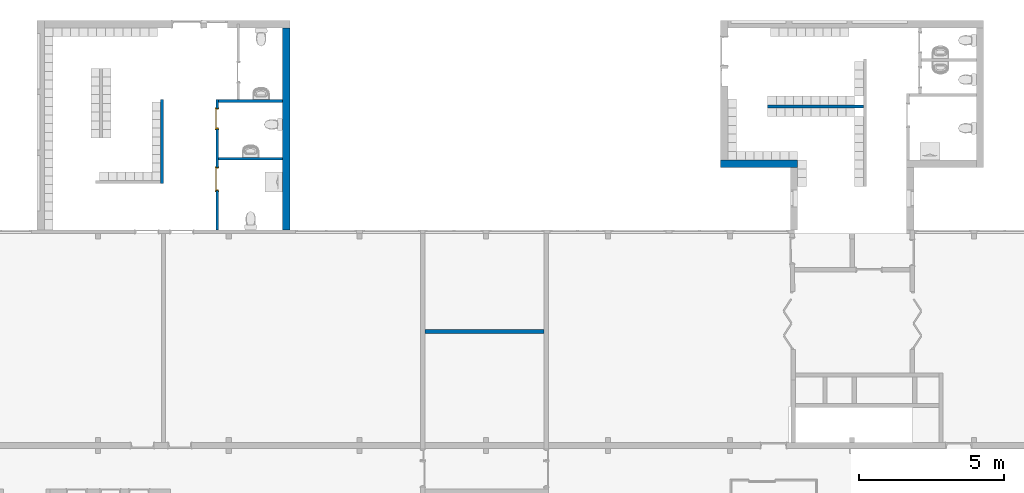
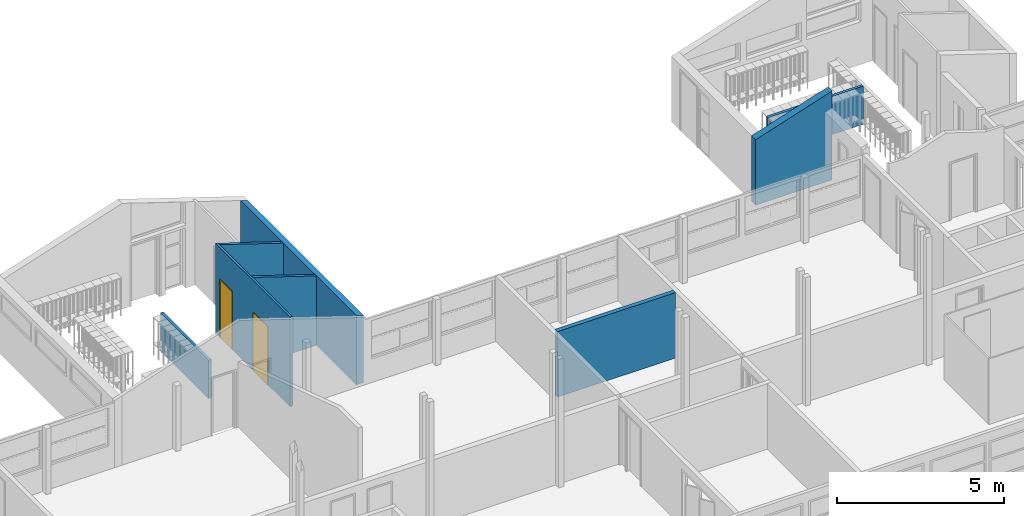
# One storey, part 31 of 48: 8 walls, 2 doors, 2 openings.
"""IFC2X3 building model written with IfcOpenShell, lengths in millimetres."""

from ifc_helpers import new_model, entity, si_unit, converted_unit, derived_unit, money_unit, direction, frame, origin_with_axes, place, context, subcontext, project, spatial, faceted_brep, material, type_object, element, fill, save


model = new_model("IFC2X3")

# Units and contexts
model_context = context("Model", 3, precision=0.01, world=origin_with_axes(), true_north=direction((0.0, 1.0)))
body_context = subcontext(model_context, "Body", "Model", "MODEL_VIEW")
ifc_project = project(units=[si_unit("LENGTHUNIT", "METRE", prefix="MILLI"), si_unit("AREAUNIT", "SQUARE_METRE"), si_unit("VOLUMEUNIT", "CUBIC_METRE"), converted_unit("PLANEANGLEUNIT", "DEGREE", entity("IfcPlaneAngleMeasure", 0.0174532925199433), si_unit("PLANEANGLEUNIT", "RADIAN"), dimensions=[0, 0, 0, 0, 0, 0, 0]), money_unit("USD"), converted_unit("TIMEUNIT", "Year", entity("IfcTimeMeasure", 31557600.0), si_unit("TIMEUNIT", "SECOND"), dimensions=[0, 0, 1, 0, 0, 0, 0]), si_unit("MASSUNIT", "GRAM", prefix="KILO"), si_unit("THERMODYNAMICTEMPERATUREUNIT", "DEGREE_CELSIUS"), si_unit("LUMINOUSINTENSITYUNIT", "LUMEN"), si_unit("ENERGYUNIT", "JOULE", prefix="MEGA"), derived_unit("THERMALCONDUCTANCEUNIT", [(si_unit("POWERUNIT", "WATT"), 1), (si_unit("LENGTHUNIT", "METRE"), -1), (si_unit("THERMODYNAMICTEMPERATUREUNIT", "KELVIN"), -1)]), derived_unit("SPECIFICHEATCAPACITYUNIT", [(si_unit("ENERGYUNIT", "JOULE"), 1), (si_unit("MASSUNIT", "GRAM", prefix="KILO"), -1), (si_unit("THERMODYNAMICTEMPERATUREUNIT", "KELVIN"), -1)]), derived_unit("MASSDENSITYUNIT", [(si_unit("MASSUNIT", "GRAM", prefix="KILO"), 1), (si_unit("VOLUMEUNIT", "CUBIC_METRE"), -1)])], contexts=[model_context])

# Site, building, storey
site_placement = place(None, origin_with_axes())
site = spatial("IfcSite", under=ifc_project, at=site_placement, Name="Site", CompositionType="ELEMENT")
building_placement = place(site_placement, origin_with_axes())
building = spatial("IfcBuilding", under=site, at=building_placement, Name="Building", CompositionType="ELEMENT")
storey_placement = place(building_placement, frame((0.0, 0.0, 3300.0), z_axis=(0.0, 0.0, 1.0), x_axis=(1.0, 0.0, 0.0)))
storey = spatial("IfcBuildingStorey", under=building, at=storey_placement, Name="1 ETG", CompositionType="ELEMENT", Elevation=3300.0)

# Walls
ifc_material = material(Name="GENERIC - INTERNAL FILLER")
wall_type_1 = type_object("IfcWallType", Name="GENERIC - INTERNAL FILLER 150", PredefinedType="NOTDEFINED")
wall_1_placement = place(storey_placement, frame((47250.00000000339, 18499.87497638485, 0.0), z_axis=(0.0, 0.0, 1.0), x_axis=(0.9999999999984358, 1.768724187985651e-06, 0.0)))
element("IfcWall", 1, at=wall_1_placement, inside=storey, type_object=wall_type_1, material=ifc_material, Name="SW - 001", context=body_context, shape_type="Brep", body=[
    faceted_brep([(4099.98001334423, -150.0072517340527, 2400.0), (4099.98001334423, -0.007251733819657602, 2400.0), (0.0, 0.0, 2400.0), (-0.0002653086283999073, -149.9999999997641, 2400.0), (4099.98001334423, -150.0072517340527, 0.0), (4099.98001334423, -0.007251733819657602, 0.0), (0.0, 0.0, 0.0), (-0.0002653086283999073, -149.9999999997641, 0.0)], [[[0, 1, 2, 3]], [[1, 0, 4, 5]], [[1, 5, 6, 2]], [[7, 3, 2, 6]], [[4, 0, 3, 7]], [[5, 4, 7, 6]]]),
])
wall_type_2 = type_object("IfcWallType", Name="GENERIC - INTERNAL FILLER 250", PredefinedType="NOTDEFINED")
wall_2_placement = place(storey_placement, frame((42475.01590910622, 29000.0, 0.0), z_axis=(0.0, 0.0, 1.0), x_axis=(1.398240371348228e-07, -0.9999999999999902, 0.0)))
element("IfcWall", 2, at=wall_2_placement, inside=storey, type_object=wall_type_2, material=ifc_material, Name="SW - 001", context=body_context, shape_type="Brep", body=[
    faceted_brep([(124.9999825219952, -125.0, 0.0), (124.9999825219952, -125.0, 2538.091265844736), (125.0000174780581, 125.0003881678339, 2456.861215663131), (125.0000174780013, 125.0, 0.0), (7080.074635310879, -125.0, 2538.09095273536), (7080.074635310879, -125.0, 0.0), (7080.074635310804, 124.9994630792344, 2456.86120025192), (7080.074635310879, 124.9999999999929, 0.0)], [[[0, 1, 2, 3]], [[4, 1, 0, 5]], [[6, 2, 1, 4]], [[3, 2, 6, 7]], [[5, 0, 3, 7]], [[7, 6, 4, 5]]]),
])
wall_3_placement = place(storey_placement, frame((59950.4607657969, 24194.83911730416, 0.0), z_axis=(0.0, 0.0, 1.0), x_axis=(-1.0, 0.0, 0.0)))
element("IfcWall", 3, at=wall_3_placement, inside=storey, type_object=wall_type_2, material=ifc_material, Name="SW - 001", context=body_context, shape_type="Brep", body=[
    faceted_brep([(2525.46074831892, -125.0, 0.0), (2525.46074831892, -125.0, 2399.999999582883), (-125.0, -125.0, 3261.187071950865), (-125.0, -125.0, 0.0), (2525.46074831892, 125.0, 0.0), (2525.46074831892, 125.0, 2399.999999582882), (-125.0, 125.0, 3261.187071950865), (-125.0, 125.0, 0.0)], [[[0, 1, 2, 3]], [[4, 5, 1, 0]], [[5, 6, 2, 1]], [[3, 2, 6, 7]], [[3, 7, 4, 0]], [[7, 6, 5, 4]]]),
])
wall_type_3 = type_object("IfcWallType", Name="GENERIC - INTERNAL FILLER 100", PredefinedType="NOTDEFINED")
wall_4_placement = place(storey_placement, frame((40099.99999999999, 24319.92555985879, 0.0), z_axis=(0.0, 0.0, 1.0), x_axis=(1.0, 1.030904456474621e-08, 0.0)))
element("IfcWall", 4, at=wall_4_placement, inside=storey, type_object=wall_type_3, material=ifc_material, Name="SW - 001", context=body_context, shape_type="Brep", body=[
    faceted_brep([(50.0000010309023, 99.99999948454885, 0.0), (50.0000010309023, 99.99999948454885, 3252.919772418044), (2250.016550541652, 99.99997680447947, 2538.091063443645), (2250.016550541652, 99.99997680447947, 0.0), (49.99999999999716, -5.154525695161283e-07, 0.0), (49.99999999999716, -5.154525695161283e-07, 3252.919772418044), (2250.016563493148, -2.319552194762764e-05, 2538.091058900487), (2250.016563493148, -2.319552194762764e-05, 0.0)], [[[0, 1, 2, 3]], [[4, 5, 1, 0]], [[5, 6, 2, 1]], [[3, 2, 6, 7]], [[0, 3, 7, 4]], [[7, 6, 5, 4]]]),
])

# Wall, openings, doors
wall_5_placement = place(storey_placement, frame((40099.99999999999, 21919.92517691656, 0.0), z_axis=(0.0, 0.0, 1.0), x_axis=(0.0, 1.0, 0.0)))
wall_5 = element("IfcWall", 5, at=wall_5_placement, inside=storey, type_object=wall_type_3, material=ifc_material, Name="SW - 001", context=body_context, shape_type="Brep", body=[
    faceted_brep([(3476.41344462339, -49.99999999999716, 0.0), (3476.41344462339, -49.99999999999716, 2100.0), (4176.413444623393, -49.99999999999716, 2100.0), (4176.413444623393, -49.99999999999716, 0.0), (4479.949664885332, -49.99999999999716, 0.0), (4479.949664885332, -49.99999999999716, 3252.919772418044), (0.0, -49.99999999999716, 3252.919772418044), (0.0, -49.99999999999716, 0.0), (1350.000381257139, -49.99999999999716, 0.0), (1350.000381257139, -49.99999999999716, 2100.0), (2150.000381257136, -49.99999999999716, 2100.0), (2150.000381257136, -49.99999999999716, 0.0), (3476.41344462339, 49.99999999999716, 0.0), (3476.41344462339, 49.99999999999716, 2100.0), (4176.413444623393, 49.99999999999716, 2100.0), (4176.413444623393, 49.99999999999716, 0.0), (4479.949650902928, 49.99999999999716, 0.0), (4479.949650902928, 49.99999999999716, 3285.411742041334), (0.0, 49.99999999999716, 3285.411742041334), (0.0, 49.99999999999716, 0.0), (1350.000381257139, 49.99999999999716, 0.0), (1350.000381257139, 49.99999999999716, 2100.0), (2150.000381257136, 49.99999999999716, 2100.0), (2150.000381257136, 49.99999999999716, 0.0)], [[[0, 1, 2, 3, 4, 5, 6, 7, 8, 9, 10, 11]], [[1, 0, 12, 13]], [[2, 1, 13, 14]], [[3, 2, 14, 15]], [[3, 15, 16, 4]], [[5, 4, 16, 17]], [[5, 17, 18, 6]], [[18, 19, 7, 6]], [[8, 7, 19, 20]], [[8, 20, 21, 9]], [[9, 21, 22, 10]], [[10, 22, 23, 11]], [[12, 0, 11, 23]], [[13, 12, 23, 22, 21, 20, 19, 18, 17, 16, 15, 14]]]),
])
opening_1_placement = place(wall_5_placement, frame((1750.000381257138, 0.0, 0.0), z_axis=(0.0, 0.0, 1.0), x_axis=(1.0, 0.0, 0.0)))
opening_1 = element("IfcOpeningElement", 6, at=opening_1_placement, cuts=wall_5, Name="DOO - 002", context=body_context, shape_type="Brep", body=[
    faceted_brep([(399.9999999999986, -50.99999999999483, 0.0), (399.9999999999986, -50.99999999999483, 2100.0), (-399.9999999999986, -50.99999999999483, 2100.0), (-399.9999999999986, -50.99999999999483, 0.0), (437.0000000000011, -50.99999999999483, 0.0), (437.0000000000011, -50.99999999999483, 2137.0), (-437.0000000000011, -50.99999999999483, 2137.0), (-437.0000000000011, -50.99999999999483, 0.0), (399.9999999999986, -49.99999999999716, 0.0), (-399.9999999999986, -49.99999999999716, 0.0), (-399.9999999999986, 50.00000000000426, 0.0), (-399.9999999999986, 50.99999999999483, 0.0), (399.9999999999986, 50.99999999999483, 0.0), (399.9999999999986, 50.00000000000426, 0.0), (437.0000000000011, -49.99999999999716, 0.0), (437.0000000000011, -49.99999999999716, 2137.0), (-437.0000000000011, -49.99999999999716, 2137.0), (-437.0000000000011, -49.99999999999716, 0.0), (-399.9999999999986, -49.99999999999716, 2100.0), (-399.9999999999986, 50.00000000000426, 2100.0), (-437.0000000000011, 50.00000000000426, 0.0), (-437.0000000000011, 50.99999999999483, 0.0), (-437.0000000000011, 50.99999999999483, 2137.0), (437.0000000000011, 50.99999999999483, 2137.0), (437.0000000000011, 50.99999999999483, 0.0), (437.0000000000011, 50.00000000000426, 0.0), (399.9999999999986, -49.99999999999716, 2100.0), (399.9999999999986, 50.00000000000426, 2100.0), (437.0000000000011, 50.00000000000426, 2137.0), (-437.0000000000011, 50.00000000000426, 2137.0)], [[[0, 1, 2, 3]], [[2, 1, 0, 4, 5, 6, 7, 3]], [[8, 0, 3, 9, 10, 11, 12, 13]], [[0, 8, 14, 4]], [[14, 15, 5, 4]], [[15, 16, 6, 5]], [[16, 17, 7, 6]], [[9, 3, 7, 17]], [[9, 18, 19, 10]], [[11, 10, 20, 21]], [[12, 11, 21, 22, 23, 24]], [[13, 12, 24, 25]], [[26, 8, 13, 27]], [[8, 26, 18, 9, 17, 16, 15, 14]], [[18, 26, 27, 19]], [[19, 27, 13, 25, 28, 29, 20, 10]], [[20, 29, 22, 21]], [[29, 28, 23, 22]], [[28, 25, 24, 23]]]),
])
opening_2_placement = place(wall_5_placement, frame((3826.413444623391, 0.0, 0.0), z_axis=(0.0, 0.0, 1.0), x_axis=(1.0, 0.0, 0.0)))
opening_2 = element("IfcOpeningElement", 7, at=opening_2_placement, cuts=wall_5, Name="DOO - 002", context=body_context, shape_type="Brep", body=[
    faceted_brep([(350.0000000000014, -50.99999999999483, 0.0), (350.0000000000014, -50.99999999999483, 2100.0), (-350.0000000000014, -50.99999999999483, 2100.0), (-350.0000000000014, -50.99999999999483, 0.0), (387.0000000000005, -50.99999999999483, 0.0), (387.0000000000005, -50.99999999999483, 2137.0), (-387.0000000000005, -50.99999999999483, 2137.0), (-387.0000000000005, -50.99999999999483, 0.0), (350.0000000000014, -49.99999999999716, 0.0), (-350.0000000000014, -49.99999999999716, 0.0), (-350.0000000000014, 50.00000000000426, 0.0), (-350.0000000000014, 50.99999999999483, 0.0), (350.0000000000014, 50.99999999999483, 0.0), (350.0000000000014, 50.00000000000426, 0.0), (387.0000000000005, -49.99999999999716, 0.0), (387.0000000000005, -49.99999999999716, 2137.0), (-387.0000000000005, -49.99999999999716, 2137.0), (-387.0000000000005, -49.99999999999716, 0.0), (-350.0000000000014, -49.99999999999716, 2100.0), (-350.0000000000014, 50.00000000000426, 2100.0), (-387.0000000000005, 50.00000000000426, 0.0), (-387.0000000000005, 50.99999999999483, 0.0), (-387.0000000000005, 50.99999999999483, 2137.0), (387.0000000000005, 50.99999999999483, 2137.0), (387.0000000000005, 50.99999999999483, 0.0), (387.0000000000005, 50.00000000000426, 0.0), (350.0000000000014, -49.99999999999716, 2100.0), (350.0000000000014, 50.00000000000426, 2100.0), (387.0000000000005, 50.00000000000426, 2137.0), (-387.0000000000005, 50.00000000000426, 2137.0)], [[[0, 1, 2, 3]], [[2, 1, 0, 4, 5, 6, 7, 3]], [[8, 0, 3, 9, 10, 11, 12, 13]], [[0, 8, 14, 4]], [[14, 15, 5, 4]], [[15, 16, 6, 5]], [[16, 17, 7, 6]], [[9, 3, 7, 17]], [[9, 18, 19, 10]], [[11, 10, 20, 21]], [[12, 11, 21, 22, 23, 24]], [[13, 12, 24, 25]], [[26, 8, 13, 27]], [[8, 26, 18, 9, 17, 16, 15, 14]], [[18, 26, 27, 19]], [[19, 27, 13, 25, 28, 29, 20, 10]], [[20, 29, 22, 21]], [[29, 28, 23, 22]], [[28, 25, 24, 23]]]),
])
door_style = type_object("IfcDoorStyle", Name="Dør", ConstructionType="NOTDEFINED", OperationType="SINGLE_SWING_RIGHT", ParameterTakesPrecedence=False, Sizeable=False)
door_1_placement = place(opening_1_placement, frame((-399.9999999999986, 0.0, 0.0), z_axis=(0.0, 0.0, 1.0), x_axis=(1.0, 0.0, 0.0)))
door_1 = element("IfcDoor", 8, at=door_1_placement, inside=storey, type_object=door_style, Name="DOO - 002", ObjectType="DOOR", OverallHeight=2100.0, OverallWidth=800.0, context=body_context, shape_type="Brep", body=[
    faceted_brep([(-37.00000000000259, 69.00000000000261, 0.0), (12.99999999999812, 69.00000000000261, 0.0), (12.99999999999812, 50.00000000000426, 0.0), (-37.00000000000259, 50.00000000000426, 0.0), (-37.00000000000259, 69.00000000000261, 2137.0), (12.99999999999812, 69.00000000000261, 2087.0), (12.99999999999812, 50.00000000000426, 2087.0), (-37.00000000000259, 50.00000000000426, 2137.0)], [[[0, 1, 2, 3]], [[0, 4, 5, 1]], [[1, 5, 6, 2]], [[3, 2, 6, 7]], [[4, 0, 3, 7]], [[5, 4, 7, 6]]]),
    faceted_brep([(836.9999999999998, 69.00000000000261, 2137.0), (786.9999999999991, 69.00000000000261, 2087.0), (786.9999999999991, 50.00000000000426, 2087.0), (836.9999999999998, 50.00000000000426, 2137.0), (836.9999999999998, 69.00000000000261, 0.0), (786.9999999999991, 69.00000000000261, 0.0), (786.9999999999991, 50.00000000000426, 0.0), (836.9999999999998, 50.00000000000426, 0.0)], [[[0, 1, 2, 3]], [[0, 4, 5, 1]], [[1, 5, 6, 2]], [[3, 2, 6, 7]], [[4, 0, 3, 7]], [[5, 4, 7, 6]]]),
    faceted_brep([(-37.00000000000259, 69.00000000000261, 2137.0), (12.99999999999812, 69.00000000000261, 2087.0), (12.99999999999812, 50.00000000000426, 2087.0), (-37.00000000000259, 50.00000000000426, 2137.0), (836.9999999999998, 69.00000000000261, 2137.0), (786.9999999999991, 69.00000000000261, 2087.0), (786.9999999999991, 50.00000000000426, 2087.0), (836.9999999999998, 50.00000000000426, 2137.0)], [[[0, 1, 2, 3]], [[0, 4, 5, 1]], [[1, 5, 6, 2]], [[3, 2, 6, 7]], [[4, 0, 3, 7]], [[5, 4, 7, 6]]]),
    faceted_brep([(-37.00000000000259, -68.99999999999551, 0.0), (-37.00000000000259, -49.99999999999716, 0.0), (12.99999999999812, -49.99999999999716, 0.0), (12.99999999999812, -68.99999999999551, 0.0), (-37.00000000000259, -68.99999999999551, 2137.0), (-37.00000000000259, -49.99999999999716, 2137.0), (12.99999999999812, -49.99999999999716, 2087.0), (12.99999999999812, -68.99999999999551, 2087.0)], [[[0, 1, 2, 3]], [[4, 5, 1, 0]], [[1, 5, 6, 2]], [[3, 2, 6, 7]], [[0, 3, 7, 4]], [[7, 6, 5, 4]]]),
    faceted_brep([(836.9999999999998, -68.99999999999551, 2137.0), (836.9999999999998, -49.99999999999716, 2137.0), (786.9999999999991, -49.99999999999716, 2087.0), (786.9999999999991, -68.99999999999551, 2087.0), (836.9999999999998, -68.99999999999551, 0.0), (836.9999999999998, -49.99999999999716, 0.0), (786.9999999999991, -49.99999999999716, 0.0), (786.9999999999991, -68.99999999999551, 0.0)], [[[0, 1, 2, 3]], [[4, 5, 1, 0]], [[1, 5, 6, 2]], [[3, 2, 6, 7]], [[0, 3, 7, 4]], [[7, 6, 5, 4]]]),
    faceted_brep([(-37.00000000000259, -68.99999999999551, 2137.0), (-37.00000000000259, -49.99999999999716, 2137.0), (12.99999999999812, -49.99999999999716, 2087.0), (12.99999999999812, -68.99999999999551, 2087.0), (836.9999999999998, -68.99999999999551, 2137.0), (836.9999999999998, -49.99999999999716, 2137.0), (786.9999999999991, -49.99999999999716, 2087.0), (786.9999999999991, -68.99999999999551, 2087.0)], [[[0, 1, 2, 3]], [[4, 5, 1, 0]], [[1, 5, 6, 2]], [[3, 2, 6, 7]], [[0, 3, 7, 4]], [[7, 6, 5, 4]]]),
    faceted_brep([(0.0, 65.00000000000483, 0.0), (39.99999999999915, 65.00000000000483, 0.0), (39.99999999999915, -49.99999999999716, 0.0), (0.0, -49.99999999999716, 0.0), (0.0, 65.00000000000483, 2060.0), (39.99999999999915, 65.00000000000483, 2060.0), (39.99999999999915, -49.99999999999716, 2060.0), (0.0, -49.99999999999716, 2060.0)], [[[0, 1, 2, 3]], [[0, 4, 5, 1]], [[1, 5, 6, 2]], [[3, 2, 6, 7]], [[4, 0, 3, 7]], [[5, 4, 7, 6]]]),
    faceted_brep([(799.9999999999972, 65.00000000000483, 0.0), (799.9999999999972, 65.00000000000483, 2060.0), (799.9999999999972, -49.99999999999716, 2060.0), (799.9999999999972, -49.99999999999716, 0.0), (759.999999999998, 65.00000000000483, 0.0), (759.999999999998, 65.00000000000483, 2060.0), (759.999999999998, -49.99999999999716, 2060.0), (759.999999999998, -49.99999999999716, 0.0)], [[[0, 1, 2, 3]], [[0, 4, 5, 1]], [[1, 5, 6, 2]], [[3, 2, 6, 7]], [[4, 0, 3, 7]], [[5, 4, 7, 6]]]),
    faceted_brep([(0.0, 65.00000000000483, 2100.0), (0.0, 65.00000000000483, 2060.0), (0.0, -49.99999999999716, 2060.0), (0.0, -49.99999999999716, 2100.0), (799.9999999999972, 65.00000000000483, 2100.0), (799.9999999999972, 65.00000000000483, 2060.0), (759.999999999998, 65.00000000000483, 2060.0), (39.99999999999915, 65.00000000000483, 2060.0), (39.99999999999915, -49.99999999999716, 2060.0), (759.999999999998, -49.99999999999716, 2060.0), (799.9999999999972, -49.99999999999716, 2060.0), (799.9999999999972, -49.99999999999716, 2100.0)], [[[0, 1, 2, 3]], [[0, 4, 5, 6, 7, 1]], [[1, 7, 8, 2]], [[3, 2, 8, 9, 10, 11]], [[4, 0, 3, 11]], [[5, 4, 11, 10]], [[6, 5, 10, 9]], [[7, 6, 9, 8]]]),
    faceted_brep([(759.999999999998, 65.00000000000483, 0.0), (759.999999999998, 25.00000000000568, 0.0), (39.99999999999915, 25.00000000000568, 0.0), (39.99999999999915, 65.00000000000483, 0.0), (759.999999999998, 65.00000000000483, 2060.0), (759.999999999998, 25.00000000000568, 2060.0), (39.99999999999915, 25.00000000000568, 2060.0), (39.99999999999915, 65.00000000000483, 2060.0)], [[[0, 1, 2, 3]], [[4, 5, 1, 0]], [[1, 5, 6, 2]], [[3, 2, 6, 7]], [[0, 3, 7, 4]], [[7, 6, 5, 4]]]),
])
fill(opening_1, door_1)
door_2_placement = place(opening_2_placement, frame((-350.0000000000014, 0.0, 0.0), z_axis=(0.0, 0.0, 1.0), x_axis=(1.0, 0.0, 0.0)))
door_2 = element("IfcDoor", 9, at=door_2_placement, inside=storey, type_object=door_style, Name="DOO - 002", ObjectType="DOOR", OverallHeight=2100.0, OverallWidth=700.0, context=body_context, shape_type="Brep", body=[
    faceted_brep([(-36.99999999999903, 69.00000000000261, 0.0), (13.00000000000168, 69.00000000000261, 0.0), (13.00000000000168, 50.00000000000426, 0.0), (-36.99999999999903, 50.00000000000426, 0.0), (-36.99999999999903, 69.00000000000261, 2137.0), (13.00000000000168, 69.00000000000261, 2087.0), (13.00000000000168, 50.00000000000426, 2087.0), (-36.99999999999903, 50.00000000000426, 2137.0)], [[[0, 1, 2, 3]], [[0, 4, 5, 1]], [[1, 5, 6, 2]], [[3, 2, 6, 7]], [[4, 0, 3, 7]], [[5, 4, 7, 6]]]),
    faceted_brep([(737.0000000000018, 69.00000000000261, 2137.0), (687.0000000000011, 69.00000000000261, 2087.0), (687.0000000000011, 50.00000000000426, 2087.0), (737.0000000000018, 50.00000000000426, 2137.0), (737.0000000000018, 69.00000000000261, 0.0), (687.0000000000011, 69.00000000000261, 0.0), (687.0000000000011, 50.00000000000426, 0.0), (737.0000000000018, 50.00000000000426, 0.0)], [[[0, 1, 2, 3]], [[0, 4, 5, 1]], [[1, 5, 6, 2]], [[3, 2, 6, 7]], [[4, 0, 3, 7]], [[5, 4, 7, 6]]]),
    faceted_brep([(-36.99999999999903, 69.00000000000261, 2137.0), (13.00000000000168, 69.00000000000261, 2087.0), (13.00000000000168, 50.00000000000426, 2087.0), (-36.99999999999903, 50.00000000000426, 2137.0), (737.0000000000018, 69.00000000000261, 2137.0), (687.0000000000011, 69.00000000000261, 2087.0), (687.0000000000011, 50.00000000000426, 2087.0), (737.0000000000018, 50.00000000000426, 2137.0)], [[[0, 1, 2, 3]], [[0, 4, 5, 1]], [[1, 5, 6, 2]], [[3, 2, 6, 7]], [[4, 0, 3, 7]], [[5, 4, 7, 6]]]),
    faceted_brep([(-36.99999999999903, -68.99999999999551, 0.0), (-36.99999999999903, -49.99999999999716, 0.0), (13.00000000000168, -49.99999999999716, 0.0), (13.00000000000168, -68.99999999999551, 0.0), (-36.99999999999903, -68.99999999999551, 2137.0), (-36.99999999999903, -49.99999999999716, 2137.0), (13.00000000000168, -49.99999999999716, 2087.0), (13.00000000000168, -68.99999999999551, 2087.0)], [[[0, 1, 2, 3]], [[4, 5, 1, 0]], [[1, 5, 6, 2]], [[3, 2, 6, 7]], [[0, 3, 7, 4]], [[7, 6, 5, 4]]]),
    faceted_brep([(737.0000000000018, -68.99999999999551, 2137.0), (737.0000000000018, -49.99999999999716, 2137.0), (687.0000000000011, -49.99999999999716, 2087.0), (687.0000000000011, -68.99999999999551, 2087.0), (737.0000000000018, -68.99999999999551, 0.0), (737.0000000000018, -49.99999999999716, 0.0), (687.0000000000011, -49.99999999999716, 0.0), (687.0000000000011, -68.99999999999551, 0.0)], [[[0, 1, 2, 3]], [[4, 5, 1, 0]], [[1, 5, 6, 2]], [[3, 2, 6, 7]], [[0, 3, 7, 4]], [[7, 6, 5, 4]]]),
    faceted_brep([(-36.99999999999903, -68.99999999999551, 2137.0), (-36.99999999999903, -49.99999999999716, 2137.0), (13.00000000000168, -49.99999999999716, 2087.0), (13.00000000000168, -68.99999999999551, 2087.0), (737.0000000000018, -68.99999999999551, 2137.0), (737.0000000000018, -49.99999999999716, 2137.0), (687.0000000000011, -49.99999999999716, 2087.0), (687.0000000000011, -68.99999999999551, 2087.0)], [[[0, 1, 2, 3]], [[4, 5, 1, 0]], [[1, 5, 6, 2]], [[3, 2, 6, 7]], [[0, 3, 7, 4]], [[7, 6, 5, 4]]]),
    faceted_brep([(0.0, 65.00000000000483, 0.0), (40.0000000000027, 65.00000000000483, 0.0), (40.0000000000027, -49.99999999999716, 0.0), (0.0, -49.99999999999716, 0.0), (0.0, 65.00000000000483, 2060.0), (40.0000000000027, 65.00000000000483, 2060.0), (40.0000000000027, -49.99999999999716, 2060.0), (0.0, -49.99999999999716, 2060.0)], [[[0, 1, 2, 3]], [[0, 4, 5, 1]], [[1, 5, 6, 2]], [[3, 2, 6, 7]], [[4, 0, 3, 7]], [[5, 4, 7, 6]]]),
    faceted_brep([(700.0000000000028, 65.00000000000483, 0.0), (700.0000000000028, 65.00000000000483, 2060.0), (700.0000000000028, -49.99999999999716, 2060.0), (700.0000000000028, -49.99999999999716, 0.0), (660.0000000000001, 65.00000000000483, 0.0), (660.0000000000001, 65.00000000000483, 2060.0), (660.0000000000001, -49.99999999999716, 2060.0), (660.0000000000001, -49.99999999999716, 0.0)], [[[0, 1, 2, 3]], [[0, 4, 5, 1]], [[1, 5, 6, 2]], [[3, 2, 6, 7]], [[4, 0, 3, 7]], [[5, 4, 7, 6]]]),
    faceted_brep([(0.0, 65.00000000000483, 2100.0), (0.0, 65.00000000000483, 2060.0), (0.0, -49.99999999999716, 2060.0), (0.0, -49.99999999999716, 2100.0), (700.0000000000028, 65.00000000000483, 2100.0), (700.0000000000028, 65.00000000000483, 2060.0), (660.0000000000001, 65.00000000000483, 2060.0), (40.0000000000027, 65.00000000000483, 2060.0), (40.0000000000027, -49.99999999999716, 2060.0), (660.0000000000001, -49.99999999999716, 2060.0), (700.0000000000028, -49.99999999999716, 2060.0), (700.0000000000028, -49.99999999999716, 2100.0)], [[[0, 1, 2, 3]], [[0, 4, 5, 6, 7, 1]], [[1, 7, 8, 2]], [[3, 2, 8, 9, 10, 11]], [[4, 0, 3, 11]], [[5, 4, 11, 10]], [[6, 5, 10, 9]], [[7, 6, 9, 8]]]),
    faceted_brep([(660.0000000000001, 65.00000000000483, 0.0), (660.0000000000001, 25.00000000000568, 0.0), (40.0000000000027, 25.00000000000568, 0.0), (40.0000000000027, 65.00000000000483, 0.0), (660.0000000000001, 65.00000000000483, 2060.0), (660.0000000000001, 25.00000000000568, 2060.0), (40.0000000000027, 25.00000000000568, 2060.0), (40.0000000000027, 65.00000000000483, 2060.0)], [[[0, 1, 2, 3]], [[4, 5, 1, 0]], [[1, 5, 6, 2]], [[3, 2, 6, 7]], [[0, 3, 7, 4]], [[7, 6, 5, 4]]]),
])
fill(opening_2, door_2)

# Walls
wall_6_placement = place(storey_placement, frame((42475.0162831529, 26349.87516689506, 0.0), z_axis=(0.0, 0.0, 1.0), x_axis=(-0.9999999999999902, -1.39824038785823e-07, 0.0)))
element("IfcWall", 10, at=wall_6_placement, inside=storey, type_object=wall_type_3, material=ifc_material, Name="SW - 001", context=body_context, shape_type="Brep", body=[
    faceted_brep([(2325.016276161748, -49.99999999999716, 0.0), (2325.016276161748, -49.99999999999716, 3252.919772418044), (125.0000034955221, -49.9999999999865, 2538.091153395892), (125.0000034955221, -49.99999999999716, 0.0), (2325.016290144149, 50.00000000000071, 0.0), (2325.016290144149, 50.00000000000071, 3252.919772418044), (125.0000034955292, 50.00000000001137, 2538.091148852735), (125.0000034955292, 50.00000000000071, 0.0)], [[[0, 1, 2, 3]], [[4, 5, 1, 0]], [[5, 6, 2, 1]], [[3, 2, 6, 7]], [[7, 4, 0, 3]], [[7, 6, 5, 4]]]),
])
wall_7_placement = place(storey_placement, frame((38250.01725297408, 26399.87505646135, 0.0), z_axis=(0.0, 0.0, 1.0), x_axis=(1.360067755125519e-07, -0.9999999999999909, 0.0)))
element("IfcWall", 11, at=wall_7_placement, inside=storey, type_object=wall_type_3, material=ifc_material, Name="SW - 001", context=body_context, shape_type="Brep", body=[
    faceted_brep([(2879.935337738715, 0.0, 0.0), (2879.935324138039, -99.99999999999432, 0.0), (0.0, -100.0000000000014, 0.0), (0.0, 0.0, 0.0), (2879.935337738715, 0.0, 1400.0), (2879.935324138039, -99.99999999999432, 1400.0), (0.0, -100.0000000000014, 1400.0), (0.0, 0.0, 1400.0)], [[[0, 1, 2, 3]], [[1, 0, 4, 5]], [[1, 5, 6, 2]], [[7, 3, 2, 6]], [[4, 0, 3, 7]], [[5, 4, 7, 6]]]),
])
wall_8_placement = place(storey_placement, frame((62340.01863631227, 26219.83770893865, 0.0), z_axis=(0.0, 0.0, 1.0), x_axis=(-1.0, 0.0, 0.0)))
element("IfcWall", 12, at=wall_8_placement, inside=storey, type_object=wall_type_3, material=ifc_material, Name="SW - 001", context=body_context, shape_type="Brep", body=[
    faceted_brep([(0.0, 0.0, 1400.0), (3300.007746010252, 0.0, 1400.0), (3300.007746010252, 100.0000000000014, 1400.0), (0.0, 100.0000000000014, 1400.0), (0.0, 0.0, 0.0), (3300.007746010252, 0.0, 0.0), (3300.007746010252, 100.0000000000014, 0.0), (0.0, 100.0000000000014, 0.0)], [[[0, 1, 2, 3]], [[4, 5, 1, 0]], [[2, 1, 5, 6]], [[3, 2, 6, 7]], [[4, 0, 3, 7]], [[7, 6, 5, 4]]]),
])

save(model, "model.ifc")
